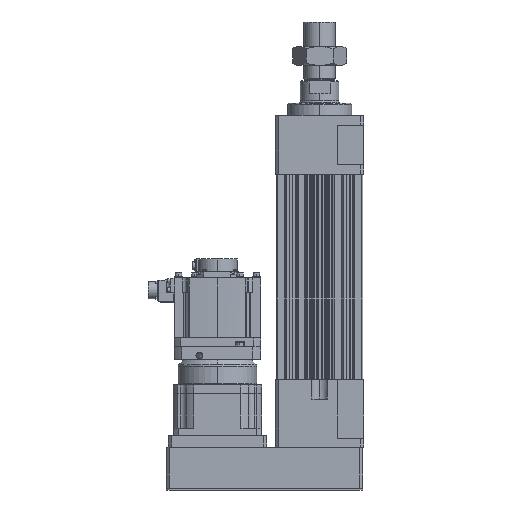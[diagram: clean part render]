
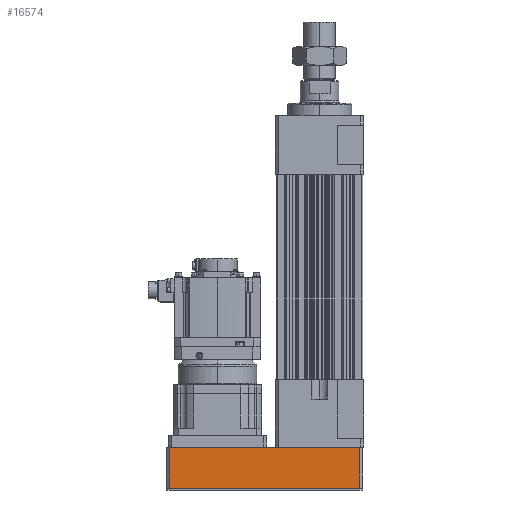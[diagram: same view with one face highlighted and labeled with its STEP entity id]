
A CAD part, left-side view. The second image highlights one B-rep face of the part: STEP entity #16574.
In plain terms, the highlighted planar face has unit normal (-1, 0, 0).
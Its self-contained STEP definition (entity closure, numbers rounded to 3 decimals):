
#938 = DIRECTION ( 'NONE',  ( 0., 1., 0. ) ) ;
#4151 = ORIENTED_EDGE ( 'NONE', *, *, #8748, .T. ) ;
#4196 = ORIENTED_EDGE ( 'NONE', *, *, #39038, .T. ) ;
#5158 = CARTESIAN_POINT ( 'NONE',  ( -88., -82., -221.5 ) ) ;
#8748 = EDGE_CURVE ( 'NONE', #19989, #43254, #45518, .T. ) ;
#8995 = CARTESIAN_POINT ( 'NONE',  ( -88., -82., -138.5 ) ) ;
#9282 = PLANE ( 'NONE',  #12020 ) ;
#11269 = ORIENTED_EDGE ( 'NONE', *, *, #25993, .F. ) ;
#11837 = VECTOR ( 'NONE', #47631, 1000. ) ;
#12020 = AXIS2_PLACEMENT_3D ( 'NONE', #25569, #29710, #17448 ) ;
#14785 = CARTESIAN_POINT ( 'NONE',  ( -88., 306., -222. ) ) ;
#16574 = ADVANCED_FACE ( 'NONE', ( #22252 ), #9282, .F. ) ;
#17448 = DIRECTION ( 'NONE',  ( 0., 0., -1. ) ) ;
#19989 = VERTEX_POINT ( 'NONE', #5158 ) ;
#22202 = CARTESIAN_POINT ( 'NONE',  ( -88., 306., -138.5 ) ) ;
#22252 = FACE_OUTER_BOUND ( 'NONE', #24374, .T. ) ;
#23728 = VECTOR ( 'NONE', #38280, 1000. ) ;
#24374 = EDGE_LOOP ( 'NONE', ( #11269, #4196, #4151, #49824 ) ) ;
#25569 = CARTESIAN_POINT ( 'NONE',  ( -88., -82., -222. ) ) ;
#25993 = EDGE_CURVE ( 'NONE', #31717, #40186, #27896, .T. ) ;
#26571 = LINE ( 'NONE', #8995, #47112 ) ;
#27896 = LINE ( 'NONE', #14785, #11837 ) ;
#29710 = DIRECTION ( 'NONE',  ( 1., 0., 0. ) ) ;
#31223 = CARTESIAN_POINT ( 'NONE',  ( -88., -82., -138.5 ) ) ;
#31634 = CARTESIAN_POINT ( 'NONE',  ( -88., 306., -221.5 ) ) ;
#31717 = VERTEX_POINT ( 'NONE', #31634 ) ;
#35383 = VECTOR ( 'NONE', #45553, 1000. ) ;
#38280 = DIRECTION ( 'NONE',  ( 0., 0., 1. ) ) ;
#39038 = EDGE_CURVE ( 'NONE', #31717, #19989, #42447, .T. ) ;
#40186 = VERTEX_POINT ( 'NONE', #22202 ) ;
#41491 = CARTESIAN_POINT ( 'NONE',  ( -88., -82., -221.5 ) ) ;
#42447 = LINE ( 'NONE', #41491, #35383 ) ;
#43254 = VERTEX_POINT ( 'NONE', #31223 ) ;
#45518 = LINE ( 'NONE', #46526, #23728 ) ;
#45525 = EDGE_CURVE ( 'NONE', #43254, #40186, #26571, .T. ) ;
#45553 = DIRECTION ( 'NONE',  ( 0., -1., 0. ) ) ;
#46526 = CARTESIAN_POINT ( 'NONE',  ( -88., -82., -222. ) ) ;
#47112 = VECTOR ( 'NONE', #938, 1000. ) ;
#47631 = DIRECTION ( 'NONE',  ( 0., 0., 1. ) ) ;
#49824 = ORIENTED_EDGE ( 'NONE', *, *, #45525, .T. ) ;
